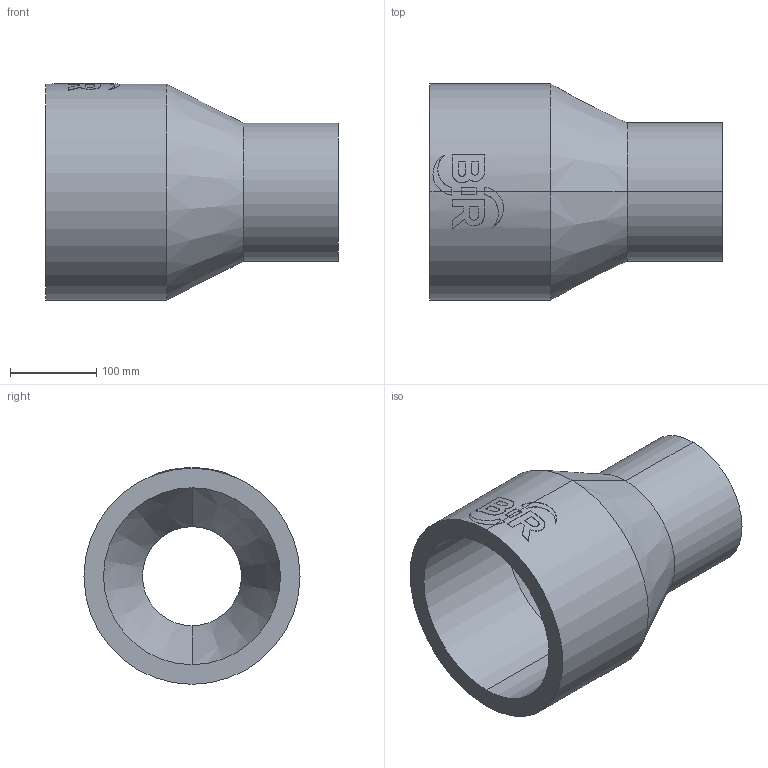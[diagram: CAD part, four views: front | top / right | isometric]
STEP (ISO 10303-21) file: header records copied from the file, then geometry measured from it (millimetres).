
FILE_DESCRIPTION (( 'STEP AP214' ), '1' );
FILE_NAME ('2323211715.STEP', '2018-07-20T11:11:40', ( '' ), ( '' ), 'SwSTEP 2.0', 'SolidWorks 2017', '' );
FILE_SCHEMA (( 'AUTOMOTIVE_DESIGN' ));
Length unit declared in the file: millimetre
Products named in the file (1): 2323211715
Bounding box: 338 x 250 x 250.46 mm (x, y, z)
Volume: 4614983.8 mm3; surface area: 432845.8 mm2
Topology: 1 solids, 1 shells, 63 faces, 160 edges, 104 vertices
Faces by surface type: cylinder 31, plane 28, cone 4
Entity records: 3357 total; most frequent: CARTESIAN_POINT 1148, ORIENTED_EDGE 320, DIRECTION 296, EDGE_CURVE 160, AXIS2_PLACEMENT_3D 112, VERTEX_POINT 104, VECTOR 72, LINE 72
